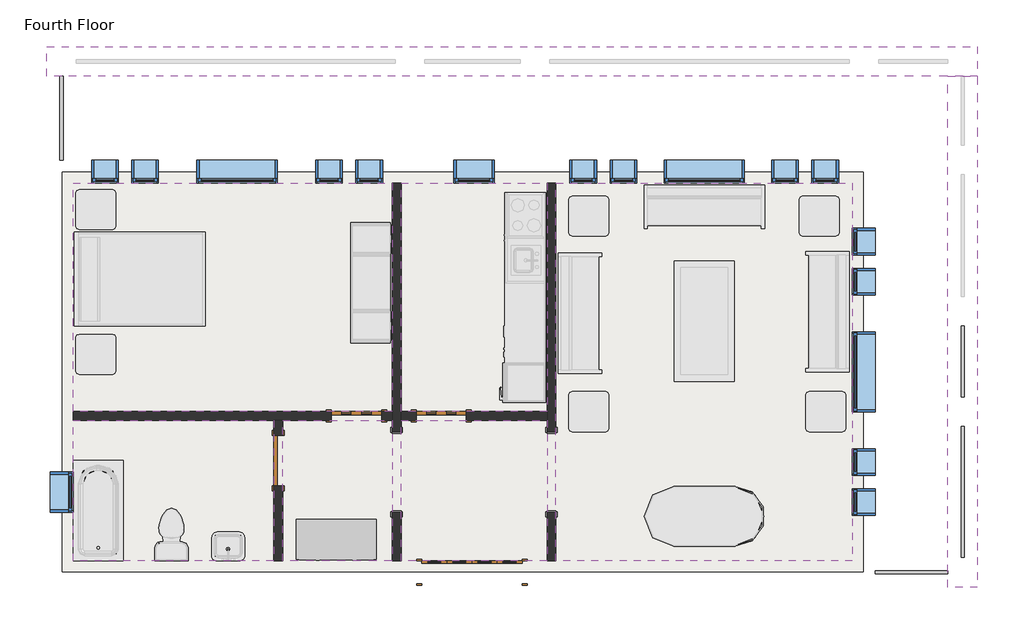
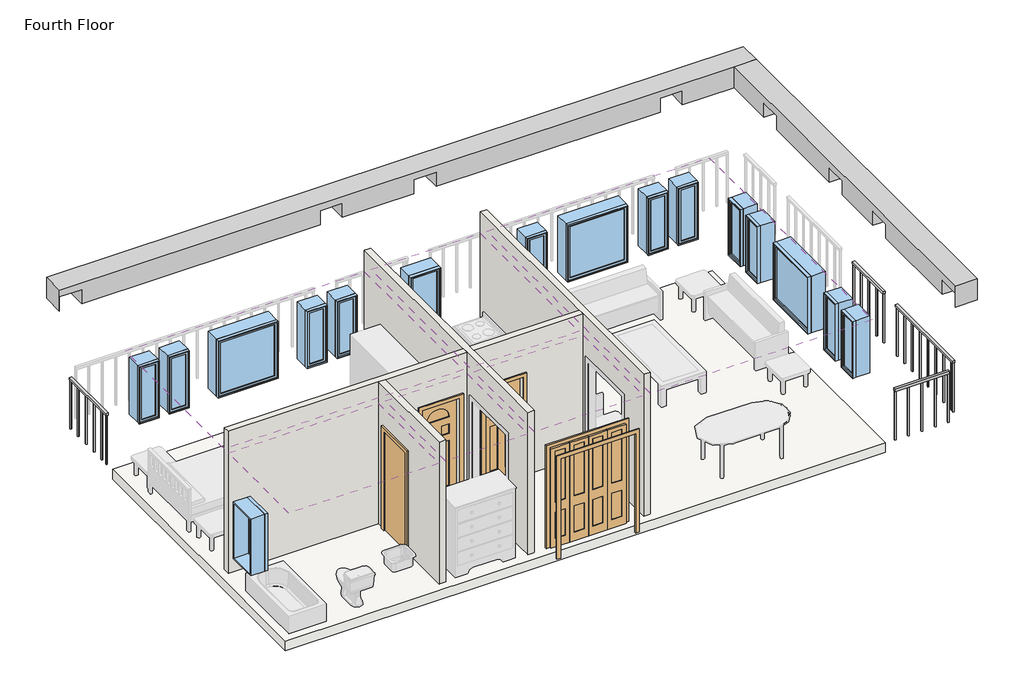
# One storey, part 1 of 2: 17 windows, 6 coverings, 4 doors, 4 railings, 4 walls, 2 beams, 1 slab.
"""IFC4 building model written with IfcOpenShell, lengths in millimetres."""

from ifc_helpers import new_model, si_unit, frame, origin, place, context, project, spatial, polyline, outline, extrude, faceted_brep, transform, mapped, element, save
from components import m_bifold_4_panel_1525_x_2134mm_1ddae71f, m_single_decorative_2_0762_x_2134mm_0d0af7cb, m_single_decorative_2_0762_x_2134mm_2fe67c8e, m_single_flush_0762_x_2134mm_0d89e411, m_fixed_0406_x_1220mm_57fee329, m_fixed_0406_x_1220mm_85c28f40, m_fixed_0610_x_1220mm_2c28ef1d, m_fixed_1220_x_1220mm_e08ff7af

model = new_model("IFC4")

# Units and contexts
model_context = context("Model", 3, world=origin())
ifc_project = project(units=[si_unit("LENGTHUNIT", "METRE", prefix="MILLI")], contexts=[model_context])

# Site, building, storey
site = spatial("IfcSite", under=ifc_project)
building = spatial("IfcBuilding", under=site)
storey = spatial("IfcBuildingStorey", under=building, Name="Fourth Floor", Elevation=9144.0)

# Beams
placement = place(None, origin())
element("IfcBeam", 1, ObjectType="M_Concrete-Rectangular Beam : 450 x 450", at=placement, inside=storey, context=model_context, shape_type="Brep", body=[
    faceted_brep([(-15338.3416203, 4481.1188386, 12192.0), (-15338.3416203, 4481.1188386, 11742.0), (-15338.3416203, 4031.1188386, 11742.0), (-15338.3416203, 4031.1188386, 12192.0), (-1643.3416203, 4031.1188386, 12192.0), (-1193.3416203, 4031.1188386, 12192.0), (-1193.3416203, 4481.1188386, 12192.0), (-15335.3416203, 4031.1188386, 11742.0), (-15335.3416203, 4031.1188386, 12042.0), (-14885.3416203, 4031.1188386, 12042.0), (-14885.3416203, 4031.1188386, 11742.0), (-10043.3416203, 4031.1188386, 11742.0), (-10043.3416203, 4031.1188386, 12042.0), (-9593.3416203, 4031.1188386, 12042.0), (-9593.3416203, 4031.1188386, 11742.0), (-8143.3416203, 4031.1188386, 11742.0), (-8143.3416203, 4031.1188386, 12042.0), (-7693.3416203, 4031.1188386, 12042.0), (-7693.3416203, 4031.1188386, 11742.0), (-3143.3416203, 4031.1188386, 11742.0), (-3143.3416203, 4031.1188386, 12042.0), (-2693.3416203, 4031.1188386, 12042.0), (-2693.3416203, 4031.1188386, 11742.0), (-1643.3416203, 4031.1188386, 11742.0), (-1643.3416203, 4031.1188386, 12042.0), (-1193.3416203, 4031.1188386, 12042.0), (-2693.3416203, 4481.1188386, 11742.0), (-1643.3416203, 4481.1188386, 11742.0), (-1193.3416203, 4481.1188386, 12042.0), (-1643.3416203, 4481.1188386, 12042.0), (-2693.3416203, 4481.1188386, 12042.0), (-3143.3416203, 4481.1188386, 12042.0), (-3143.3416203, 4481.1188386, 11742.0), (-7693.3416203, 4481.1188386, 11742.0), (-7693.3416203, 4481.1188386, 12042.0), (-8143.3416203, 4481.1188386, 12042.0), (-8143.3416203, 4481.1188386, 11742.0), (-9593.3416203, 4481.1188386, 11742.0), (-9593.3416203, 4481.1188386, 12042.0), (-10043.3416203, 4481.1188386, 12042.0), (-10043.3416203, 4481.1188386, 11742.0), (-14885.3416203, 4481.1188386, 11742.0), (-14885.3416203, 4481.1188386, 12042.0), (-15335.3416203, 4481.1188386, 12042.0), (-15335.3416203, 4481.1188386, 11742.0)], [[[0, 1, 2, 3]], [[0, 3, 4, 5, 6]], [[3, 2, 7, 8, 9, 10, 11, 12, 13, 14, 15, 16, 17, 18, 19, 20, 21, 22, 23, 24, 25, 5, 4]], [[22, 26, 27, 23]], [[1, 0, 6, 28, 29, 27, 26, 30, 31, 32, 33, 34, 35, 36, 37, 38, 39, 40, 41, 42, 43, 44]], [[6, 5, 25, 28]], [[21, 30, 26, 22]], [[31, 20, 19, 32]], [[30, 21, 20, 31]], [[32, 19, 18, 33]], [[17, 34, 33, 18]], [[35, 16, 15, 36]], [[34, 17, 16, 35]], [[36, 15, 14, 37]], [[13, 38, 37, 14]], [[39, 12, 11, 40]], [[38, 13, 12, 39]], [[40, 11, 10, 41]], [[9, 42, 41, 10]], [[42, 9, 8, 43]], [[29, 24, 23, 27]], [[24, 29, 28, 25]], [[43, 8, 7, 44]], [[2, 1, 44, 7]]]),
])
element("IfcBeam", 2, ObjectType="M_Concrete-Rectangular Beam : 450 x 450", at=placement, inside=storey, context=model_context, shape_type="Brep", body=[
    faceted_brep([(-1193.3416203, -3743.8811614, 12192.0), (-1643.3416203, -3743.8811614, 12192.0), (-1643.3416203, -3743.8811614, 11742.0), (-1193.3416203, -3743.8811614, 11742.0), (-1193.3416203, 4031.1188386, 12192.0), (-1643.3416203, 4031.1188386, 12192.0), (-1643.3416203, 4031.1188386, 12042.0), (-1643.3416203, 4031.1188386, 11742.0), (-1643.3416203, 2981.1188386, 11742.0), (-1643.3416203, 2981.1188386, 12042.0), (-1643.3416203, 2531.1188386, 12042.0), (-1643.3416203, 2531.1188386, 11742.0), (-1643.3416203, 681.1188386, 11742.0), (-1643.3416203, 681.1188386, 12042.0), (-1643.3416203, 231.1188386, 12042.0), (-1643.3416203, 231.1188386, 11742.0), (-1643.3416203, -845.3811614, 11742.0), (-1643.3416203, -845.3811614, 12042.0), (-1643.3416203, -1295.3811614, 12042.0), (-1643.3416203, -1295.3811614, 11742.0), (-1643.3416203, -3289.8811614, 11742.0), (-1643.3416203, -3289.8811614, 12042.0), (-1643.3416203, -3739.8811614, 12042.0), (-1643.3416203, -3739.8811614, 11742.0), (-1193.3416203, -3739.8811614, 11742.0), (-1193.3416203, -3739.8811614, 12042.0), (-1193.3416203, -3289.8811614, 12042.0), (-1193.3416203, -3289.8811614, 11742.0), (-1193.3416203, -1295.3811614, 11742.0), (-1193.3416203, -1295.3811614, 12042.0), (-1193.3416203, -845.3811614, 12042.0), (-1193.3416203, -845.3811614, 11742.0), (-1193.3416203, 231.1188386, 11742.0), (-1193.3416203, 231.1188386, 12042.0), (-1193.3416203, 681.1188386, 12042.0), (-1193.3416203, 681.1188386, 11742.0), (-1193.3416203, 2531.1188386, 11742.0), (-1193.3416203, 2531.1188386, 12042.0), (-1193.3416203, 2981.1188386, 12042.0), (-1193.3416203, 2981.1188386, 11742.0), (-1193.3416203, 4031.1188386, 11742.0), (-1193.3416203, 4031.1188386, 12042.0)], [[[0, 1, 2, 3]], [[1, 0, 4, 5]], [[2, 1, 5, 6, 7, 8, 9, 10, 11, 12, 13, 14, 15, 16, 17, 18, 19, 20, 21, 22, 23]], [[3, 2, 23, 24]], [[0, 3, 24, 25, 26, 27, 28, 29, 30, 31, 32, 33, 34, 35, 36, 37, 38, 39, 40, 41, 4]], [[5, 4, 41, 40, 7, 6]], [[10, 37, 36, 11]], [[38, 9, 8, 39]], [[37, 10, 9, 38]], [[7, 40, 39, 8]], [[14, 33, 32, 15]], [[34, 13, 12, 35]], [[33, 14, 13, 34]], [[11, 36, 35, 12]], [[18, 29, 28, 19]], [[30, 17, 16, 31]], [[29, 18, 17, 30]], [[15, 32, 31, 16]], [[26, 21, 20, 27]], [[25, 22, 21, 26]], [[22, 25, 24, 23]], [[19, 28, 27, 20]]]),
])

# Coverings
element("IfcCovering", 3, ObjectType="Plain", at=placement, inside=storey, context=model_context, shape_type="SweptSolid", body=[
    extrude(outline(polyline([(-14935.3416203, 2406.1188386), (-10086.8416203, 2406.1188386), (-10086.8416203, -1070.3811614), (-14935.3416203, -1070.3811614), (-14935.3416203, 2406.1188386)])), frame((0.0, 0.0, 11734.0), z_axis=(0.0, 0.0, 1.0), x_axis=(1.0, 0.0, 0.0)), (0.0, 0.0, 1.0), 57.0),
])
element("IfcCovering", 4, ObjectType="Plain", at=placement, inside=storey, context=model_context, shape_type="SweptSolid", body=[
    extrude(outline(polyline([(-9951.3416203, -1070.3811614), (-9951.3416203, 2406.1188386), (-7733.0916203, 2406.1188386), (-7733.0916203, -1070.3811614), (-9951.3416203, -1070.3811614)])), frame((0.0, 0.0, 11734.0), z_axis=(0.0, 0.0, 1.0), x_axis=(1.0, 0.0, 0.0)), (0.0, 0.0, 1.0), 57.0),
])
element("IfcCovering", 5, ObjectType="Plain", at=placement, inside=storey, context=model_context, shape_type="SweptSolid", body=[
    extrude(outline(polyline([(-7597.5916203, -3339.8811614), (-7597.5916203, 2406.1188386), (-3093.3416203, 2406.1188386), (-3093.3416203, -3339.8811614), (-7597.5916203, -3339.8811614)])), frame((0.0, 0.0, 11734.0), z_axis=(0.0, 0.0, 1.0), x_axis=(1.0, 0.0, 0.0)), (0.0, 0.0, 1.0), 57.0),
])
element("IfcCovering", 6, ObjectType="Plain", at=placement, inside=storey, context=model_context, shape_type="SweptSolid", body=[
    extrude(outline(polyline([(-7733.0916203, -3339.8811614), (-9951.3416203, -3339.8811614), (-9951.3416203, -1205.8811614), (-7733.0916203, -1205.8811614), (-7733.0916203, -3339.8811614)])), frame((0.0, 0.0, 11734.0), z_axis=(0.0, 0.0, 1.0), x_axis=(1.0, 0.0, 0.0)), (0.0, 0.0, 1.0), 57.0),
])
element("IfcCovering", 7, ObjectType="Plain", at=placement, inside=storey, context=model_context, shape_type="SweptSolid", body=[
    extrude(outline(polyline([(-11887.3416203, -1205.8811614), (-11887.3416203, -3339.8811614), (-14935.3416203, -3339.8811614), (-14935.3416203, -1205.8811614), (-11887.3416203, -1205.8811614)])), frame((0.0, 0.0, 11734.0), z_axis=(0.0, 0.0, 1.0), x_axis=(1.0, 0.0, 0.0)), (0.0, 0.0, 1.0), 57.0),
])
element("IfcCovering", 8, ObjectType="Plain", at=placement, inside=storey, context=model_context, shape_type="SweptSolid", body=[
    extrude(outline(polyline([(-10086.8416203, -3339.8811614), (-11751.8416203, -3339.8811614), (-11751.8416203, -1205.8811614), (-10086.8416203, -1205.8811614), (-10086.8416203, -3339.8811614)])), frame((0.0, 0.0, 11734.0), z_axis=(0.0, 0.0, 1.0), x_axis=(1.0, 0.0, 0.0)), (0.0, 0.0, 1.0), 57.0),
])

# Doors
m_bifold_4_panel_1525_x_2134mm_shape = m_bifold_4_panel_1525_x_2134mm_1ddae71f(model_context)
element("IfcDoor", 9, ObjectType="M_Bifold-4 Panel : 1525 x 2134mm", at=placement, inside=storey, context=model_context, shape_type="MappedRepresentation", body=[
    mapped(m_bifold_4_panel_1525_x_2134mm_shape, transform((-8876.0916203, -3514.8811614, 9144.0), x_axis=(1.0, 0.0, 0.0), y_axis=(0.0, 1.0, 0.0), z_axis=(0.0, 0.0, 1.0))),
])
m_single_decorative_2_0762_x_2134mm_shape = m_single_decorative_2_0762_x_2134mm_0d0af7cb(model_context)
element("IfcDoor", 10, ObjectType="M_Single-Decorative 2 : 0762 x 2134mm", at=placement, inside=storey, context=model_context, shape_type="MappedRepresentation", body=[
    mapped(m_single_decorative_2_0762_x_2134mm_shape, transform((-9342.3416203, -1138.1311614, 9144.0), x_axis=(-1.0, 0.0, 0.0), y_axis=(0.0, -1.0, 0.0), z_axis=(0.0, 0.0, 1.0))),
])
m_single_decorative_2_0762_x_2134mm_2_shape = m_single_decorative_2_0762_x_2134mm_2fe67c8e(model_context)
element("IfcDoor", 11, ObjectType="M_Single-Decorative 2 : 0762 x 2134mm", at=placement, inside=storey, context=model_context, shape_type="MappedRepresentation", body=[
    mapped(m_single_decorative_2_0762_x_2134mm_2_shape, transform((-10629.0916203, -1138.1311614, 9144.0), x_axis=(1.0, 0.0, 0.0), y_axis=(0.0, 1.0, 0.0), z_axis=(0.0, 0.0, 1.0))),
])
m_single_flush_0762_x_2134mm_shape = m_single_flush_0762_x_2134mm_0d89e411(model_context)
element("IfcDoor", 12, ObjectType="M_Single-Flush : 0762 x 2134mm", at=placement, inside=storey, context=model_context, shape_type="MappedRepresentation", body=[
    mapped(m_single_flush_0762_x_2134mm_shape, transform((-11819.5916203, -1815.8811614, 9144.0), x_axis=(0.0, 1.0, 0.0), y_axis=(-1.0, 0.0, 0.0), z_axis=(0.0, 0.0, 1.0))),
])

# Railings
element("IfcRailing", 13, ObjectType="1100mm", at=placement, inside=storey, context=model_context, shape_type="SweptSolid", body=[
    extrude(outline(polyline([(-1443.3416203, 231.1188386), (-1393.3416203, 231.1188386), (-1393.3416203, -845.3811614), (-1443.3416203, -845.3811614), (-1443.3416203, 231.1188386)])), frame((0.0, 0.0, 10194.0), z_axis=(0.0, 0.0, 1.0), x_axis=(1.0, 0.0, 0.0)), (0.0, 0.0, 1.0), 50.0),
    extrude(outline(polyline([(-1430.8416203, -581.3811614), (-1405.8416203, -581.3811614), (-1405.8416203, -606.3811614), (-1430.8416203, -606.3811614), (-1430.8416203, -581.3811614)])), frame((0.0, 0.0, 9144.0), z_axis=(0.0, 0.0, 1.0), x_axis=(1.0, 0.0, 0.0)), (0.0, 0.0, 1.0), 1050.0),
    extrude(outline(polyline([(-1430.8416203, -306.3811614), (-1405.8416203, -306.3811614), (-1405.8416203, -331.3811614), (-1430.8416203, -331.3811614), (-1430.8416203, -306.3811614)])), frame((0.0, 0.0, 9144.0), z_axis=(0.0, 0.0, 1.0), x_axis=(1.0, 0.0, 0.0)), (0.0, 0.0, 1.0), 1050.0),
    extrude(outline(polyline([(-1430.8416203, -31.3811614), (-1405.8416203, -31.3811614), (-1405.8416203, -56.3811614), (-1430.8416203, -56.3811614), (-1430.8416203, -31.3811614)])), frame((0.0, 0.0, 9144.0), z_axis=(0.0, 0.0, 1.0), x_axis=(1.0, 0.0, 0.0)), (0.0, 0.0, 1.0), 1050.0),
    extrude(outline(polyline([(-1430.8416203, -820.3811614), (-1405.8416203, -820.3811614), (-1405.8416203, -845.3811614), (-1430.8416203, -845.3811614), (-1430.8416203, -820.3811614)])), frame((0.0, 0.0, 9144.0), z_axis=(0.0, 0.0, 1.0), x_axis=(1.0, 0.0, 0.0)), (0.0, 0.0, 1.0), 1050.0),
    extrude(outline(polyline([(-1430.8416203, 231.1188386), (-1405.8416203, 231.1188386), (-1405.8416203, 206.1188386), (-1430.8416203, 206.1188386), (-1430.8416203, 231.1188386)])), frame((0.0, 0.0, 9144.0), z_axis=(0.0, 0.0, 1.0), x_axis=(1.0, 0.0, 0.0)), (0.0, 0.0, 1.0), 1050.0),
])
element("IfcRailing", 14, ObjectType="1100mm", at=placement, inside=storey, context=model_context, shape_type="SweptSolid", body=[
    extrude(outline(polyline([(-1443.3416203, -1295.3811614), (-1393.3416203, -1295.3811614), (-1393.3416203, -3289.8811614), (-1443.3416203, -3289.8811614), (-1443.3416203, -1295.3811614)])), frame((0.0, 0.0, 10194.0), z_axis=(0.0, 0.0, 1.0), x_axis=(1.0, 0.0, 0.0)), (0.0, 0.0, 1.0), 50.0),
    extrude(outline(polyline([(-1430.8416203, -3207.8811614), (-1405.8416203, -3207.8811614), (-1405.8416203, -3232.8811614), (-1430.8416203, -3232.8811614), (-1430.8416203, -3207.8811614)])), frame((0.0, 0.0, 9144.0), z_axis=(0.0, 0.0, 1.0), x_axis=(1.0, 0.0, 0.0)), (0.0, 0.0, 1.0), 1050.0),
    extrude(outline(polyline([(-1430.8416203, -2932.8811614), (-1405.8416203, -2932.8811614), (-1405.8416203, -2957.8811614), (-1430.8416203, -2957.8811614), (-1430.8416203, -2932.8811614)])), frame((0.0, 0.0, 9144.0), z_axis=(0.0, 0.0, 1.0), x_axis=(1.0, 0.0, 0.0)), (0.0, 0.0, 1.0), 1050.0),
    extrude(outline(polyline([(-1430.8416203, -2657.8811614), (-1405.8416203, -2657.8811614), (-1405.8416203, -2682.8811614), (-1430.8416203, -2682.8811614), (-1430.8416203, -2657.8811614)])), frame((0.0, 0.0, 9144.0), z_axis=(0.0, 0.0, 1.0), x_axis=(1.0, 0.0, 0.0)), (0.0, 0.0, 1.0), 1050.0),
    extrude(outline(polyline([(-1430.8416203, -2382.8811614), (-1405.8416203, -2382.8811614), (-1405.8416203, -2407.8811614), (-1430.8416203, -2407.8811614), (-1430.8416203, -2382.8811614)])), frame((0.0, 0.0, 9144.0), z_axis=(0.0, 0.0, 1.0), x_axis=(1.0, 0.0, 0.0)), (0.0, 0.0, 1.0), 1050.0),
    extrude(outline(polyline([(-1430.8416203, -2107.8811614), (-1405.8416203, -2107.8811614), (-1405.8416203, -2132.8811614), (-1430.8416203, -2132.8811614), (-1430.8416203, -2107.8811614)])), frame((0.0, 0.0, 9144.0), z_axis=(0.0, 0.0, 1.0), x_axis=(1.0, 0.0, 0.0)), (0.0, 0.0, 1.0), 1050.0),
    extrude(outline(polyline([(-1430.8416203, -1832.8811614), (-1405.8416203, -1832.8811614), (-1405.8416203, -1857.8811614), (-1430.8416203, -1857.8811614), (-1430.8416203, -1832.8811614)])), frame((0.0, 0.0, 9144.0), z_axis=(0.0, 0.0, 1.0), x_axis=(1.0, 0.0, 0.0)), (0.0, 0.0, 1.0), 1050.0),
    extrude(outline(polyline([(-1430.8416203, -1557.8811614), (-1405.8416203, -1557.8811614), (-1405.8416203, -1582.8811614), (-1430.8416203, -1582.8811614), (-1430.8416203, -1557.8811614)])), frame((0.0, 0.0, 9144.0), z_axis=(0.0, 0.0, 1.0), x_axis=(1.0, 0.0, 0.0)), (0.0, 0.0, 1.0), 1050.0),
    extrude(outline(polyline([(-1430.8416203, -3264.8811614), (-1405.8416203, -3264.8811614), (-1405.8416203, -3289.8811614), (-1430.8416203, -3289.8811614), (-1430.8416203, -3264.8811614)])), frame((0.0, 0.0, 9144.0), z_axis=(0.0, 0.0, 1.0), x_axis=(1.0, 0.0, 0.0)), (0.0, 0.0, 1.0), 1050.0),
    extrude(outline(polyline([(-1430.8416203, -1295.3811614), (-1405.8416203, -1295.3811614), (-1405.8416203, -1320.3811614), (-1430.8416203, -1320.3811614), (-1430.8416203, -1295.3811614)])), frame((0.0, 0.0, 9144.0), z_axis=(0.0, 0.0, 1.0), x_axis=(1.0, 0.0, 0.0)), (0.0, 0.0, 1.0), 1050.0),
])
element("IfcRailing", 15, ObjectType="1100mm", at=placement, inside=storey, context=model_context, shape_type="SweptSolid", body=[
    extrude(outline(polyline([(-1643.3416203, -3489.8811614), (-1643.3416203, -3539.8811614), (-2743.3416203, -3539.8811614), (-2743.3416203, -3489.8811614), (-1643.3416203, -3489.8811614)])), frame((0.0, 0.0, 10194.0), z_axis=(0.0, 0.0, 1.0), x_axis=(1.0, 0.0, 0.0)), (0.0, 0.0, 1.0), 50.0),
    extrude(outline(polyline([(-2455.8416203, -3502.3811614), (-2455.8416203, -3527.3811614), (-2480.8416203, -3527.3811614), (-2480.8416203, -3502.3811614), (-2455.8416203, -3502.3811614)])), frame((0.0, 0.0, 9144.0), z_axis=(0.0, 0.0, 1.0), x_axis=(1.0, 0.0, 0.0)), (0.0, 0.0, 1.0), 1050.0),
    extrude(outline(polyline([(-2180.8416203, -3502.3811614), (-2180.8416203, -3527.3811614), (-2205.8416203, -3527.3811614), (-2205.8416203, -3502.3811614), (-2180.8416203, -3502.3811614)])), frame((0.0, 0.0, 9144.0), z_axis=(0.0, 0.0, 1.0), x_axis=(1.0, 0.0, 0.0)), (0.0, 0.0, 1.0), 1050.0),
    extrude(outline(polyline([(-1905.8416203, -3502.3811614), (-1905.8416203, -3527.3811614), (-1930.8416203, -3527.3811614), (-1930.8416203, -3502.3811614), (-1905.8416203, -3502.3811614)])), frame((0.0, 0.0, 9144.0), z_axis=(0.0, 0.0, 1.0), x_axis=(1.0, 0.0, 0.0)), (0.0, 0.0, 1.0), 1050.0),
    extrude(outline(polyline([(-2718.3416203, -3502.3811614), (-2718.3416203, -3527.3811614), (-2743.3416203, -3527.3811614), (-2743.3416203, -3502.3811614), (-2718.3416203, -3502.3811614)])), frame((0.0, 0.0, 9144.0), z_axis=(0.0, 0.0, 1.0), x_axis=(1.0, 0.0, 0.0)), (0.0, 0.0, 1.0), 1050.0),
    extrude(outline(polyline([(-1643.3416203, -3502.3811614), (-1643.3416203, -3527.3811614), (-1668.3416203, -3527.3811614), (-1668.3416203, -3502.3811614), (-1643.3416203, -3502.3811614)])), frame((0.0, 0.0, 9144.0), z_axis=(0.0, 0.0, 1.0), x_axis=(1.0, 0.0, 0.0)), (0.0, 0.0, 1.0), 1050.0),
])
element("IfcRailing", 16, ObjectType="1100mm", at=placement, inside=storey, context=model_context, shape_type="SweptSolid", body=[
    extrude(outline(polyline([(-15135.3416203, 4031.1188386), (-15085.3416203, 4031.1188386), (-15085.3416203, 2756.1188386), (-15135.3416203, 2756.1188386), (-15135.3416203, 4031.1188386)])), frame((0.0, 0.0, 10194.0), z_axis=(0.0, 0.0, 1.0), x_axis=(1.0, 0.0, 0.0)), (0.0, 0.0, 1.0), 50.0),
    extrude(outline(polyline([(-15122.8416203, 2943.6188386), (-15097.8416203, 2943.6188386), (-15097.8416203, 2918.6188386), (-15122.8416203, 2918.6188386), (-15122.8416203, 2943.6188386)])), frame((0.0, 0.0, 9144.0), z_axis=(0.0, 0.0, 1.0), x_axis=(1.0, 0.0, 0.0)), (0.0, 0.0, 1.0), 1050.0),
    extrude(outline(polyline([(-15122.8416203, 3218.6188386), (-15097.8416203, 3218.6188386), (-15097.8416203, 3193.6188386), (-15122.8416203, 3193.6188386), (-15122.8416203, 3218.6188386)])), frame((0.0, 0.0, 9144.0), z_axis=(0.0, 0.0, 1.0), x_axis=(1.0, 0.0, 0.0)), (0.0, 0.0, 1.0), 1050.0),
    extrude(outline(polyline([(-15122.8416203, 3493.6188386), (-15097.8416203, 3493.6188386), (-15097.8416203, 3468.6188386), (-15122.8416203, 3468.6188386), (-15122.8416203, 3493.6188386)])), frame((0.0, 0.0, 9144.0), z_axis=(0.0, 0.0, 1.0), x_axis=(1.0, 0.0, 0.0)), (0.0, 0.0, 1.0), 1050.0),
    extrude(outline(polyline([(-15122.8416203, 3768.6188386), (-15097.8416203, 3768.6188386), (-15097.8416203, 3743.6188386), (-15122.8416203, 3743.6188386), (-15122.8416203, 3768.6188386)])), frame((0.0, 0.0, 9144.0), z_axis=(0.0, 0.0, 1.0), x_axis=(1.0, 0.0, 0.0)), (0.0, 0.0, 1.0), 1050.0),
    extrude(outline(polyline([(-15122.8416203, 2781.1188386), (-15097.8416203, 2781.1188386), (-15097.8416203, 2756.1188386), (-15122.8416203, 2756.1188386), (-15122.8416203, 2781.1188386)])), frame((0.0, 0.0, 9144.0), z_axis=(0.0, 0.0, 1.0), x_axis=(1.0, 0.0, 0.0)), (0.0, 0.0, 1.0), 1050.0),
    extrude(outline(polyline([(-15122.8416203, 4031.1188386), (-15097.8416203, 4031.1188386), (-15097.8416203, 4006.1188386), (-15122.8416203, 4006.1188386), (-15122.8416203, 4031.1188386)])), frame((0.0, 0.0, 9144.0), z_axis=(0.0, 0.0, 1.0), x_axis=(1.0, 0.0, 0.0)), (0.0, 0.0, 1.0), 1050.0),
])

# Slab
element("IfcSlab", 17, ObjectType="160mm Concrete With 50mm Metal Deck", at=placement, inside=storey, context=model_context, shape_type="SweptSolid", body=[
    extrude(outline(polyline([(-2928.3416203, 2571.1188386), (-2928.3416203, -3504.8811614), (-15100.3416203, -3504.8811614), (-15100.3416203, 2571.1188386), (-2928.3416203, 2571.1188386)])), frame((0.0, 0.0, 8934.0), z_axis=(0.0, 0.0, 1.0), x_axis=(1.0, 0.0, 0.0)), (0.0, 0.0, 1.0), 210.0),
])

# Walls
element("IfcWall", 18, ObjectType="Interior - 135mm Partition (2-hr)", at=placement, inside=storey, context=model_context, shape_type="Brep", body=[
    faceted_brep([(-7733.0916203, 2406.1188386, 9144.0), (-7733.0916203, -1070.3811614, 9144.0), (-7733.0916203, -1205.8811614, 9144.0), (-7733.0916203, -1380.8811614, 9144.0), (-7733.0916203, -1380.8811614, 11278.0), (-7733.0916203, -2600.8811614, 11278.0), (-7733.0916203, -2600.8811614, 9144.0), (-7733.0916203, -3339.8811614, 9144.0), (-7733.0916203, -3339.8811614, 12192.0), (-7733.0916203, -1205.8811614, 12192.0), (-7733.0916203, -1070.3811614, 12192.0), (-7733.0916203, 2406.1188386, 12192.0), (-7597.5916203, -1380.8811614, 11278.0), (-7597.5916203, -1380.8811614, 9144.0), (-7597.5916203, 2406.1188386, 9144.0), (-7597.5916203, 2406.1188386, 12192.0), (-7597.5916203, -3339.8811614, 12192.0), (-7597.5916203, -3339.8811614, 9144.0), (-7597.5916203, -2600.8811614, 9144.0), (-7597.5916203, -2600.8811614, 11278.0)], [[[0, 1, 2, 3, 4, 5, 6, 7, 8, 9, 10, 11]], [[12, 13, 14, 15, 16, 17, 18, 19]], [[18, 17, 7, 6]], [[14, 13, 3, 2, 1, 0]], [[11, 10, 9, 8, 16, 15]], [[6, 5, 19, 18]], [[4, 3, 13, 12]], [[5, 4, 12, 19]], [[0, 11, 15, 14]], [[8, 7, 17, 16]]]),
])
element("IfcWall", 19, ObjectType="Interior - 135mm Partition (2-hr)", at=placement, inside=storey, context=model_context, shape_type="Brep", body=[
    faceted_brep([(-10086.8416203, -2600.8811614, 11278.0), (-10086.8416203, -2600.8811614, 9144.0), (-10086.8416203, -3339.8811614, 9144.0), (-10086.8416203, -3339.8811614, 12192.0), (-10086.8416203, -1205.8811614, 12192.0), (-10086.8416203, -1070.3811614, 12192.0), (-10086.8416203, 2406.1188386, 12192.0), (-10086.8416203, 2406.1188386, 9144.0), (-10086.8416203, -1070.3811614, 9144.0), (-10086.8416203, -1205.8811614, 9144.0), (-10086.8416203, -1380.8811614, 9144.0), (-10086.8416203, -1380.8811614, 11278.0), (-9951.3416203, -3339.8811614, 9144.0), (-9951.3416203, -2600.8811614, 9144.0), (-9951.3416203, -2600.8811614, 11278.0), (-9951.3416203, -1380.8811614, 11278.0), (-9951.3416203, -1380.8811614, 9144.0), (-9951.3416203, -1205.8811614, 9144.0), (-9951.3416203, -1070.3811614, 9144.0), (-9951.3416203, 2406.1188386, 9144.0), (-9951.3416203, 2406.1188386, 12192.0), (-9951.3416203, -1070.3811614, 12192.0), (-9951.3416203, -1205.8811614, 12192.0), (-9951.3416203, -3339.8811614, 12192.0)], [[[0, 1, 2, 3, 4, 5, 6, 7, 8, 9, 10, 11]], [[12, 13, 14, 15, 16, 17, 18, 19, 20, 21, 22, 23]], [[2, 1, 13, 12]], [[10, 9, 8, 7, 19, 18, 17, 16]], [[6, 5, 4, 3, 23, 22, 21, 20]], [[16, 15, 11, 10]], [[14, 13, 1, 0]], [[15, 14, 0, 11]], [[7, 6, 20, 19]], [[3, 2, 12, 23]]]),
])
element("IfcWall", 20, ObjectType="Interior - 135mm Partition (2-hr)", at=placement, inside=storey, context=model_context, shape_type="Brep", body=[
    faceted_brep([(-7733.0916203, -1205.8811614, 9144.0), (-7733.0916203, -1205.8811614, 12192.0), (-9951.3416203, -1205.8811614, 12192.0), (-9951.3416203, -1205.8811614, 9144.0), (-9723.3416203, -1205.8811614, 9144.0), (-9723.3416203, -1205.8811614, 11278.0), (-8961.3416203, -1205.8811614, 11278.0), (-8961.3416203, -1205.8811614, 9144.0), (-7733.0916203, -1070.3811614, 12192.0), (-7733.0916203, -1070.3811614, 9144.0), (-8961.3416203, -1070.3811614, 9144.0), (-8961.3416203, -1070.3811614, 11278.0), (-9723.3416203, -1070.3811614, 11278.0), (-9723.3416203, -1070.3811614, 9144.0), (-9951.3416203, -1070.3811614, 9144.0), (-9951.3416203, -1070.3811614, 12192.0)], [[[0, 1, 2, 3, 4, 5, 6, 7]], [[8, 9, 10, 11, 12, 13, 14, 15]], [[9, 0, 7, 10]], [[13, 4, 3, 14]], [[1, 8, 15, 2]], [[1, 0, 9, 8]], [[3, 2, 15, 14]], [[5, 4, 13, 12]], [[6, 5, 12, 11]], [[7, 6, 11, 10]]]),
    faceted_brep([(-10248.0916203, -1205.8811614, 11278.0), (-10248.0916203, -1205.8811614, 9144.0), (-10086.8416203, -1205.8811614, 9144.0), (-10086.8416203, -1205.8811614, 12192.0), (-11751.8416203, -1205.8811614, 12192.0), (-11887.3416203, -1205.8811614, 12192.0), (-14935.3416203, -1205.8811614, 12192.0), (-14935.3416203, -1205.8811614, 9144.0), (-11887.3416203, -1205.8811614, 9144.0), (-11751.8416203, -1205.8811614, 9144.0), (-11010.0916203, -1205.8811614, 9144.0), (-11010.0916203, -1205.8811614, 11278.0), (-10248.0916203, -1070.3811614, 9144.0), (-10248.0916203, -1070.3811614, 11278.0), (-11010.0916203, -1070.3811614, 11278.0), (-11010.0916203, -1070.3811614, 9144.0), (-14935.3416203, -1070.3811614, 9144.0), (-14935.3416203, -1070.3811614, 12192.0), (-10086.8416203, -1070.3811614, 12192.0), (-10086.8416203, -1070.3811614, 9144.0)], [[[0, 1, 2, 3, 4, 5, 6, 7, 8, 9, 10, 11]], [[12, 13, 14, 15, 16, 17, 18, 19]], [[1, 12, 19, 2]], [[15, 10, 9, 8, 7, 16]], [[17, 6, 5, 4, 3, 18]], [[3, 2, 19, 18]], [[13, 12, 1, 0]], [[14, 13, 0, 11]], [[15, 14, 11, 10]], [[7, 6, 17, 16]]]),
])
element("IfcWall", 21, ObjectType="Interior - 135mm Partition (2-hr)", at=placement, inside=storey, context=model_context, shape_type="SweptSolid", body=[
    extrude(outline(polyline([(-1205.8811614, 9144.0), (-1434.8811614, 9144.0), (-1434.8811614, 11278.0), (-2196.8811614, 11278.0), (-2196.8811614, 9144.0), (-3339.8811614, 9144.0), (-3339.8811614, 12192.0), (-1205.8811614, 12192.0), (-1205.8811614, 9144.0)])), frame((-11887.3416203, 0.0, 0.0), z_axis=(1.0, 0.0, 0.0), x_axis=(0.0, 1.0, 0.0)), (0.0, 0.0, 1.0), 135.5),
])

# Windows
m_fixed_0406_x_1220mm_shape = m_fixed_0406_x_1220mm_57fee329(model_context)
element("IfcWindow", 22, ObjectType="M_Fixed : 0406 x 1220mm", at=placement, inside=storey, context=model_context, shape_type="MappedRepresentation", body=[
    mapped(m_fixed_0406_x_1220mm_shape, transform((-14450.3416203, 2594.1188386, 9144.0), x_axis=(-1.0, 0.0, 0.0), y_axis=(0.0, -1.0, 0.0), z_axis=(0.0, 0.0, 1.0))),
])
element("IfcWindow", 23, ObjectType="M_Fixed : 0406 x 1220mm", at=placement, inside=storey, context=model_context, shape_type="MappedRepresentation", body=[
    mapped(m_fixed_0406_x_1220mm_shape, transform((-13840.3416203, 2594.1188386, 9144.0), x_axis=(-1.0, 0.0, 0.0), y_axis=(0.0, -1.0, 0.0), z_axis=(0.0, 0.0, 1.0))),
])
element("IfcWindow", 24, ObjectType="M_Fixed : 0406 x 1220mm", at=placement, inside=storey, context=model_context, shape_type="MappedRepresentation", body=[
    mapped(m_fixed_0406_x_1220mm_shape, transform((-7183.3416203, 2594.1188386, 9144.0), x_axis=(-1.0, 0.0, 0.0), y_axis=(0.0, -1.0, 0.0), z_axis=(0.0, 0.0, 1.0))),
])
element("IfcWindow", 25, ObjectType="M_Fixed : 0406 x 1220mm", at=placement, inside=storey, context=model_context, shape_type="MappedRepresentation", body=[
    mapped(m_fixed_0406_x_1220mm_shape, transform((-6573.3416203, 2594.1188386, 9144.0), x_axis=(-1.0, 0.0, 0.0), y_axis=(0.0, -1.0, 0.0), z_axis=(0.0, 0.0, 1.0))),
])
element("IfcWindow", 26, ObjectType="M_Fixed : 0406 x 1220mm", at=placement, inside=storey, context=model_context, shape_type="MappedRepresentation", body=[
    mapped(m_fixed_0406_x_1220mm_shape, transform((-2905.3416203, 1514.1188386, 9144.0), x_axis=(0.0, 1.0, 0.0), y_axis=(-1.0, 0.0, 0.0), z_axis=(0.0, 0.0, 1.0))),
])
element("IfcWindow", 27, ObjectType="M_Fixed : 0406 x 1220mm", at=placement, inside=storey, context=model_context, shape_type="MappedRepresentation", body=[
    mapped(m_fixed_0406_x_1220mm_shape, transform((-2905.3416203, 904.1188386, 9144.0), x_axis=(0.0, 1.0, 0.0), y_axis=(-1.0, 0.0, 0.0), z_axis=(0.0, 0.0, 1.0))),
])
m_fixed_0406_x_1220mm_2_shape = m_fixed_0406_x_1220mm_85c28f40(model_context)
element("IfcWindow", 28, ObjectType="M_Fixed : 0406 x 1220mm", at=placement, inside=storey, context=model_context, shape_type="MappedRepresentation", body=[
    mapped(m_fixed_0406_x_1220mm_2_shape, transform((-10436.3416203, 2594.1188386, 9144.0), x_axis=(1.0, 0.0, 0.0), y_axis=(0.0, 1.0, 0.0), z_axis=(0.0, 0.0, 1.0))),
])
element("IfcWindow", 29, ObjectType="M_Fixed : 0406 x 1220mm", at=placement, inside=storey, context=model_context, shape_type="MappedRepresentation", body=[
    mapped(m_fixed_0406_x_1220mm_2_shape, transform((-11046.3416203, 2594.1188386, 9144.0), x_axis=(1.0, 0.0, 0.0), y_axis=(0.0, 1.0, 0.0), z_axis=(0.0, 0.0, 1.0))),
])
element("IfcWindow", 30, ObjectType="M_Fixed : 0406 x 1220mm", at=placement, inside=storey, context=model_context, shape_type="MappedRepresentation", body=[
    mapped(m_fixed_0406_x_1220mm_2_shape, transform((-3507.5916203, 2594.1188386, 9144.0), x_axis=(1.0, 0.0, 0.0), y_axis=(0.0, 1.0, 0.0), z_axis=(0.0, 0.0, 1.0))),
])
element("IfcWindow", 31, ObjectType="M_Fixed : 0406 x 1220mm", at=placement, inside=storey, context=model_context, shape_type="MappedRepresentation", body=[
    mapped(m_fixed_0406_x_1220mm_2_shape, transform((-4117.5916203, 2594.1188386, 9144.0), x_axis=(1.0, 0.0, 0.0), y_axis=(0.0, 1.0, 0.0), z_axis=(0.0, 0.0, 1.0))),
])
element("IfcWindow", 32, ObjectType="M_Fixed : 0406 x 1220mm", at=placement, inside=storey, context=model_context, shape_type="MappedRepresentation", body=[
    mapped(m_fixed_0406_x_1220mm_2_shape, transform((-2905.3416203, -2447.8811614, 9144.0), x_axis=(0.0, -1.0, 0.0), y_axis=(1.0, 0.0, 0.0), z_axis=(0.0, 0.0, 1.0))),
])
element("IfcWindow", 33, ObjectType="M_Fixed : 0406 x 1220mm", at=placement, inside=storey, context=model_context, shape_type="MappedRepresentation", body=[
    mapped(m_fixed_0406_x_1220mm_2_shape, transform((-2905.3416203, -1837.8811614, 9144.0), x_axis=(0.0, -1.0, 0.0), y_axis=(1.0, 0.0, 0.0), z_axis=(0.0, 0.0, 1.0))),
])
m_fixed_0610_x_1220mm_shape = m_fixed_0610_x_1220mm_2c28ef1d(model_context)
element("IfcWindow", 34, ObjectType="M_Fixed : 0610 x 1220mm", at=placement, inside=storey, context=model_context, shape_type="MappedRepresentation", body=[
    mapped(m_fixed_0610_x_1220mm_shape, transform((-8842.1916203, 2594.1188386, 9144.0), x_axis=(-1.0, 0.0, 0.0), y_axis=(0.0, -1.0, 0.0), z_axis=(0.0, 0.0, 1.0))),
])
element("IfcWindow", 35, ObjectType="M_Fixed : 0610 x 1220mm", at=placement, inside=storey, context=model_context, shape_type="MappedRepresentation", body=[
    mapped(m_fixed_0610_x_1220mm_shape, transform((-15123.3416203, -2294.8811614, 9144.0), x_axis=(0.0, -1.0, 0.0), y_axis=(1.0, 0.0, 0.0), z_axis=(0.0, 0.0, 1.0))),
])
m_fixed_1220_x_1220mm_shape = m_fixed_1220_x_1220mm_e08ff7af(model_context)
element("IfcWindow", 36, ObjectType="M_Fixed : 1220 x 1220mm", at=placement, inside=storey, context=model_context, shape_type="MappedRepresentation", body=[
    mapped(m_fixed_1220_x_1220mm_shape, transform((-12443.3416203, 2594.1188386, 9144.0), x_axis=(-1.0, 0.0, 0.0), y_axis=(0.0, -1.0, 0.0), z_axis=(0.0, 0.0, 1.0))),
])
element("IfcWindow", 37, ObjectType="M_Fixed : 1220 x 1220mm", at=placement, inside=storey, context=model_context, shape_type="MappedRepresentation", body=[
    mapped(m_fixed_1220_x_1220mm_shape, transform((-5345.4666203, 2594.1188386, 9144.0), x_axis=(-1.0, 0.0, 0.0), y_axis=(0.0, -1.0, 0.0), z_axis=(0.0, 0.0, 1.0))),
])
element("IfcWindow", 38, ObjectType="M_Fixed : 1220 x 1220mm", at=placement, inside=storey, context=model_context, shape_type="MappedRepresentation", body=[
    mapped(m_fixed_1220_x_1220mm_shape, transform((-2905.3416203, -466.8811614, 9144.0), x_axis=(0.0, 1.0, 0.0), y_axis=(-1.0, 0.0, 0.0), z_axis=(0.0, 0.0, 1.0))),
])

save(model, "model.ifc")
